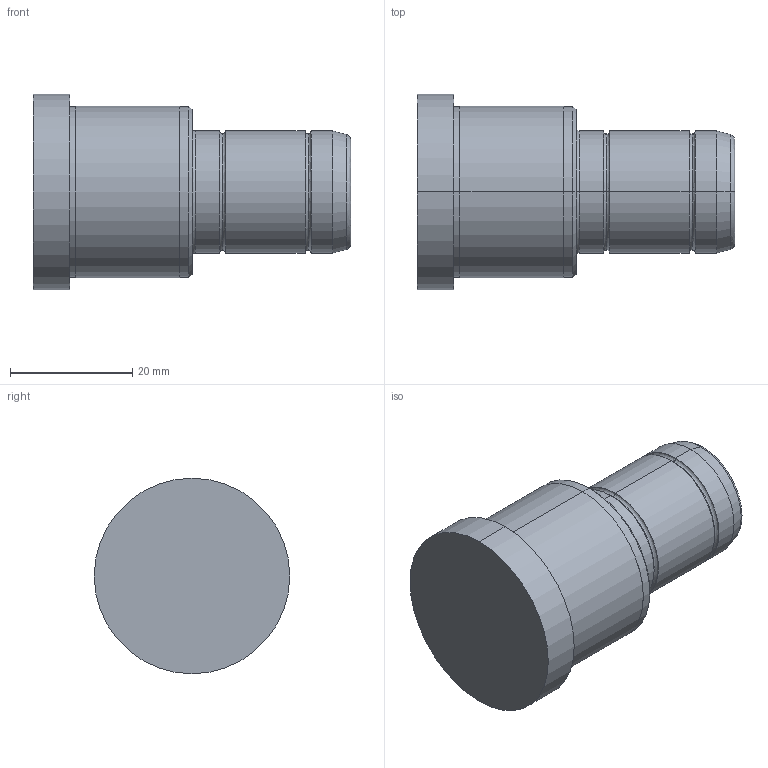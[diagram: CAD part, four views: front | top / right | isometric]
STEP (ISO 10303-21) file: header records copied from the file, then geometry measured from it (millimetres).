
FILE_DESCRIPTION( ( 'STEP AP203' ), '1' );
FILE_NAME( 'C:/Projects/D02 - 20x26x26.step', '2003-01-04T13:45:05', ( ' ' ), ( ' ' ), 'XStep 1.0', ' ', ' ' );
FILE_SCHEMA( ( 'CONFIG_CONTROL_DESIGN' ) );
Length unit declared in the file: metre
Products named in the file (1): 1
Bounding box: 52 x 32 x 32 mm (x, y, z)
Volume: 25187.7 mm3; surface area: 5570.4 mm2
Topology: 1 solids, 1 shells, 36 faces, 70 edges, 40 vertices
Faces by surface type: bspline 18, revolution 18
Entity records: 1127 total; most frequent: CARTESIAN_POINT 417, ORIENTED_EDGE 140, DIRECTION 118, EDGE_CURVE 70, AXIS2_PLACEMENT_3D 41, EDGE_LOOP 40, VERTEX_POINT 40, CIRCLE 40
